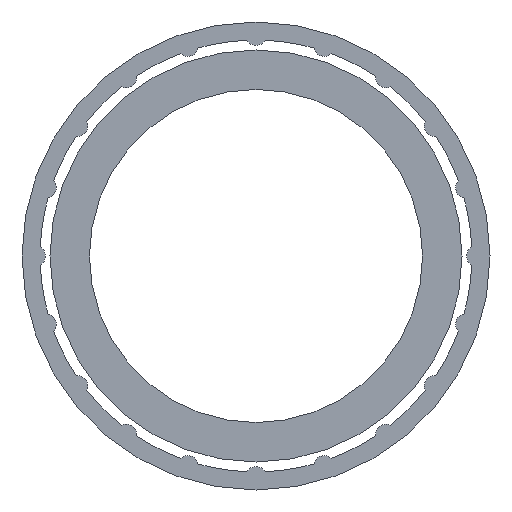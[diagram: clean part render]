
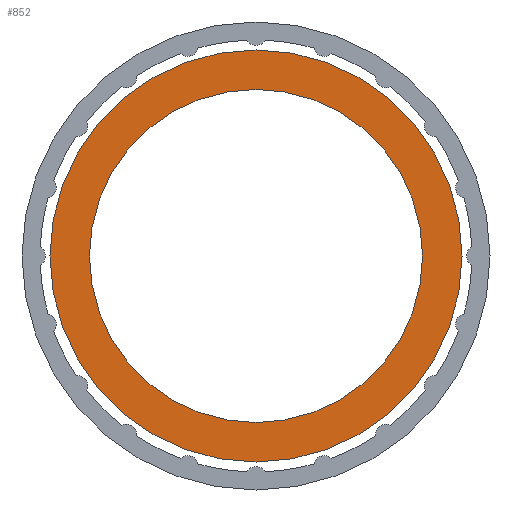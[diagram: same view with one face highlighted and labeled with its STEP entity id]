
A CAD part, front view. The second image highlights one B-rep face of the part: STEP entity #852.
In plain terms, the highlighted planar face has unit normal (0, -1, 0).
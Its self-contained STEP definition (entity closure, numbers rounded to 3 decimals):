
#141 = CARTESIAN_POINT ( 'NONE',  ( 0., 0., -44.625 ) ) ;
#144 = CARTESIAN_POINT ( 'NONE',  ( 0., 0., 44.625 ) ) ;
#161 = CARTESIAN_POINT ( 'NONE',  ( 0., 0., -55.2 ) ) ;
#191 = CARTESIAN_POINT ( 'NONE',  ( 0., 0., 55.2 ) ) ;
#248 = CARTESIAN_POINT ( 'NONE',  ( 0., 0., 0. ) ) ;
#249 = DIRECTION ( 'NONE',  ( 0., -1., 0. ) ) ;
#250 = DIRECTION ( 'NONE',  ( 0., 0., -1. ) ) ;
#734 = AXIS2_PLACEMENT_3D ( 'NONE', #248, #249, #250 ) ;
#736 = AXIS2_PLACEMENT_3D ( 'NONE', #1631, #1632, #1633 ) ;
#737 = CIRCLE ( 'NONE', #734, 55.2 ) ;
#739 = CIRCLE ( 'NONE', #736, 44.625 ) ;
#740 = AXIS2_PLACEMENT_3D ( 'NONE', #1623, #1624, #1625 ) ;
#743 = CIRCLE ( 'NONE', #740, 44.625 ) ;
#749 = AXIS2_PLACEMENT_3D ( 'NONE', #1604, #1605, #1606 ) ;
#753 = CIRCLE ( 'NONE', #749, 55.2 ) ;
#809 = AXIS2_PLACEMENT_3D ( 'NONE', #1389, #1397, #1398 ) ;
#852 = ADVANCED_FACE ( 'NONE', ( #1393, #1394 ), #1395, .T. ) ;
#907 = EDGE_CURVE ( 'NONE', #1142, #1112, #753, .T. ) ;
#914 = EDGE_CURVE ( 'NONE', #1090, #1095, #743, .T. ) ;
#916 = EDGE_CURVE ( 'NONE', #1095, #1090, #739, .T. ) ;
#917 = EDGE_CURVE ( 'NONE', #1112, #1142, #737, .T. ) ;
#1085 = EDGE_LOOP ( 'NONE', ( #1801, #1790 ) ) ;
#1090 = VERTEX_POINT ( 'NONE', #141 ) ;
#1095 = VERTEX_POINT ( 'NONE', #144 ) ;
#1112 = VERTEX_POINT ( 'NONE', #161 ) ;
#1142 = VERTEX_POINT ( 'NONE', #191 ) ;
#1311 = ORIENTED_EDGE ( 'NONE', *, *, #914, .F. ) ;
#1389 = CARTESIAN_POINT ( 'NONE',  ( 0., 0., 0. ) ) ;
#1393 = FACE_OUTER_BOUND ( 'NONE', #1085, .T. ) ;
#1394 = FACE_BOUND ( 'NONE', #1818, .T. ) ;
#1395 = PLANE ( 'NONE',  #809 ) ;
#1397 = DIRECTION ( 'NONE',  ( 0., -1., 0. ) ) ;
#1398 = DIRECTION ( 'NONE',  ( 0., 0., -1. ) ) ;
#1604 = CARTESIAN_POINT ( 'NONE',  ( 0., 0., 0. ) ) ;
#1605 = DIRECTION ( 'NONE',  ( 0., -1., 0. ) ) ;
#1606 = DIRECTION ( 'NONE',  ( 0., 0., -1. ) ) ;
#1623 = CARTESIAN_POINT ( 'NONE',  ( 0., 0., 0. ) ) ;
#1624 = DIRECTION ( 'NONE',  ( 0., -1., 0. ) ) ;
#1625 = DIRECTION ( 'NONE',  ( 0., 0., -1. ) ) ;
#1631 = CARTESIAN_POINT ( 'NONE',  ( 0., 0., 0. ) ) ;
#1632 = DIRECTION ( 'NONE',  ( 0., -1., 0. ) ) ;
#1633 = DIRECTION ( 'NONE',  ( 0., 0., -1. ) ) ;
#1789 = ORIENTED_EDGE ( 'NONE', *, *, #916, .F. ) ;
#1790 = ORIENTED_EDGE ( 'NONE', *, *, #917, .T. ) ;
#1801 = ORIENTED_EDGE ( 'NONE', *, *, #907, .T. ) ;
#1818 = EDGE_LOOP ( 'NONE', ( #1789, #1311 ) ) ;
